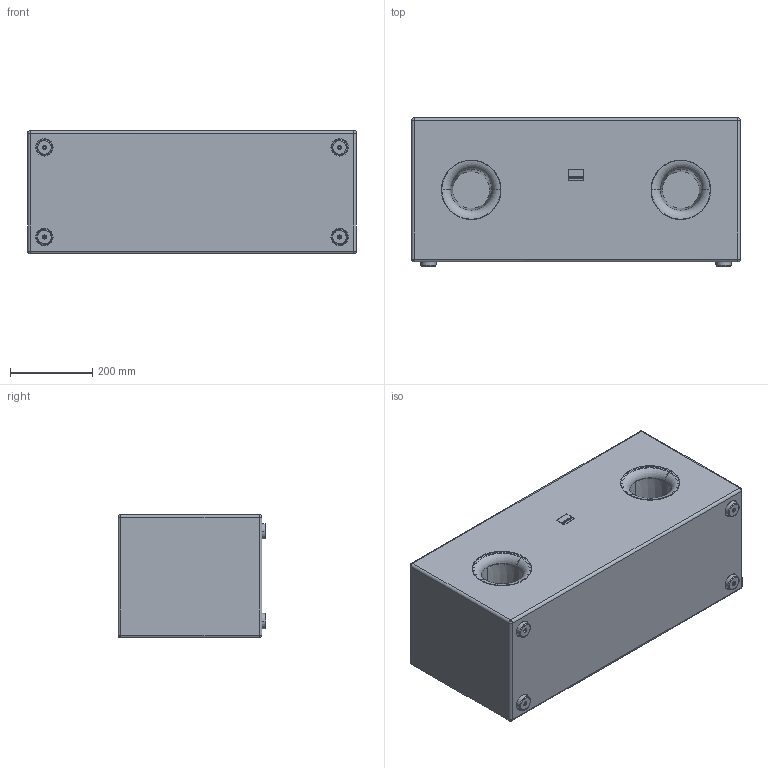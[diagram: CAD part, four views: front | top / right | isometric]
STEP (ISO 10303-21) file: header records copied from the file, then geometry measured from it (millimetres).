
FILE_DESCRIPTION (( 'STEP AP203' ), '1' );
FILE_NAME ('SEEBURG_A1-Sub.STEP', '2012-09-27T13:17:29', ( 'Fabian' ), ( '' ), 'SwSTEP 2.0', 'SolidWorks 2009', '' );
FILE_SCHEMA (( 'CONFIG_CONTROL_DESIGN' ));
Length unit declared in the file: millimetre
Products named in the file (2): A1-Sub; SEEBURG_A1-Sub
Assembly tree (1 placements, depth 2):
  SEEBURG_A1-Sub
    A1-Sub
Bounding box: 800 x 360 x 301.11 mm (x, y, z)
Volume: 22237058.4 mm3; surface area: 3026758.9 mm2
Topology: 24 solids, 24 shells, 539 faces, 1295 edges, 808 vertices
Faces by surface type: cylinder 210, plane 185, cone 80, torus 52, sphere 12
Entity records: 17109 total; most frequent: CARTESIAN_POINT 4202, DIRECTION 2831, ORIENTED_EDGE 2542, EDGE_CURVE 1271, AXIS2_PLACEMENT_3D 1089, VERTEX_POINT 796, VECTOR 653, LINE 653
